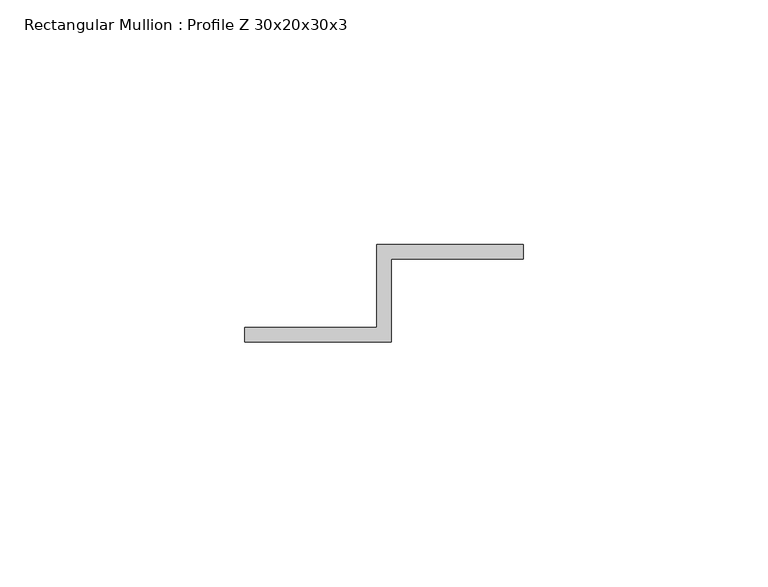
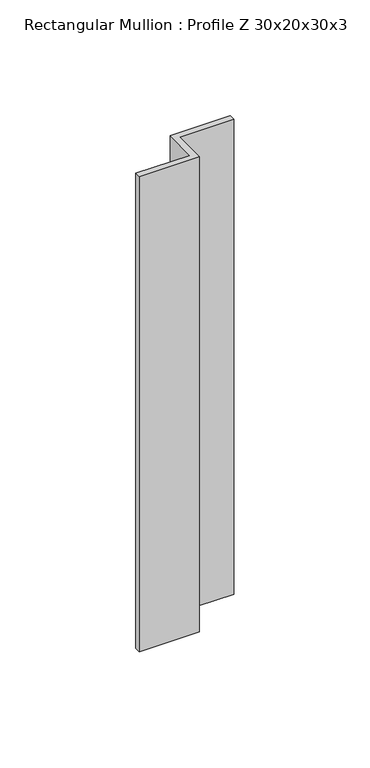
"""IFC4 building model written with IfcOpenShell, lengths in millimetres: member geometry, Rectangular Mullion : Profile Z 30x20x30x3."""

from ifc_helpers import new_model, si_unit, frame, origin, place, context, project, spatial, polyline, outline, extrude, source, transform, mapped, element, save


def rectangular_mullion_profile_z_30x20x30x3_bba282d4(model_context):
    return source(origin(), model_context, "Body", "SweptSolid", [
        extrude(outline(polyline([(-33.0, -29.5), (-3.0, -29.5), (-3.0, -32.5), (-30.0, -32.5), (-30.0, -49.5), (-60.0, -49.5), (-60.0, -46.5), (-33.0, -46.5), (-33.0, -29.5)])), frame((0.0, 0.0, -250.0000002), z_axis=(0.0, 0.0, 1.0), x_axis=(1.0, 0.0, 0.0)), (0.0, 0.0, 1.0), 250.0000002),
    ])


if __name__ == "__main__":
    model = new_model("IFC4")
    model_context = context("Model", 3, world=origin())
    ifc_project = project(units=[si_unit("LENGTHUNIT", "METRE", prefix="MILLI")], contexts=[model_context])
    site = spatial("IfcSite", under=ifc_project)
    building = spatial("IfcBuilding", under=site)
    placement = place(None, origin())
    rectangular_mullion_profile_z_30x20x30x3_shape = rectangular_mullion_profile_z_30x20x30x3_bba282d4(model_context)
    element("IfcMember", 1, ObjectType="Rectangular Mullion : Profile Z 30x20x30x3", at=placement, inside=building, context=model_context, shape_type="MappedRepresentation", body=[
        mapped(rectangular_mullion_profile_z_30x20x30x3_shape, transform((0.0, 0.0, 0.0), x_axis=(1.0, 0.0, 0.0), y_axis=(0.0, 1.0, 0.0), z_axis=(0.0, 0.0, 1.0))),
    ])
    save(model, "model.ifc")
